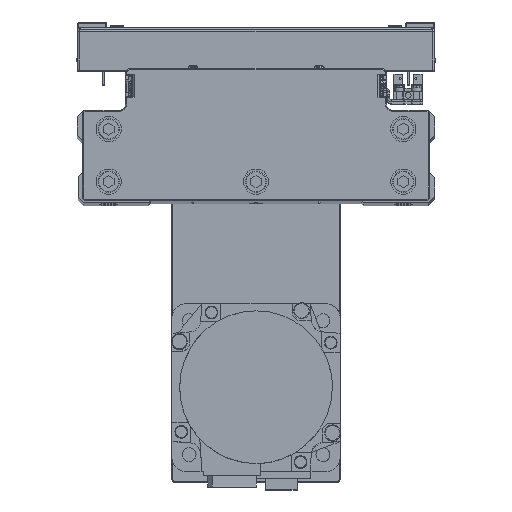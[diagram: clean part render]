
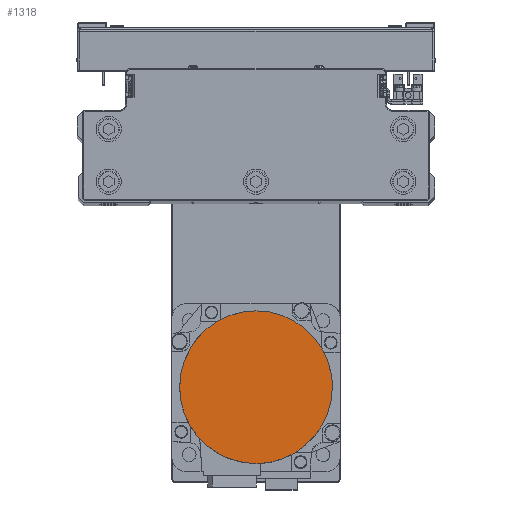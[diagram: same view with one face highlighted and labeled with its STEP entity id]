
A CAD part, top view. The second image highlights one B-rep face of the part: STEP entity #1318.
In plain terms, the highlighted planar face has unit normal (0, 0, 1) as drawn and (0, 0, -1) by its records, which use the part's own axes.
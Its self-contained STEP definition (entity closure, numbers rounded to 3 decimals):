
#777 = CARTESIAN_POINT ( 'NONE',  ( -36.066, -4.752, -122.2 ) ) ;
#1003 = CARTESIAN_POINT ( 'NONE',  ( -4.752, -36.066, -122.2 ) ) ;
#1318 = ADVANCED_FACE ( 'NONE', ( #12619 ), #26341, .F. ) ;
#1384 = CARTESIAN_POINT ( 'NONE',  ( -31.502, 18.192, -122.2 ) ) ;
#3620 = EDGE_LOOP ( 'NONE', ( #7188, #16813, #26326, #14446 ) ) ;
#4372 = CARTESIAN_POINT ( 'NONE',  ( -16.086, -32.628, -122.2 ) ) ;
#4771 = CARTESIAN_POINT ( 'NONE',  ( -23.988, 27.348, -122.2 ) ) ;
#5411 = CARTESIAN_POINT ( 'NONE',  ( 0., 0., -122.2 ) ) ;
#5618 = EDGE_CURVE ( 'NONE', #21263, #6183, #8970, .T. ) ;
#5646 = EDGE_CURVE ( 'NONE', #12370, #21263, #26222, .T. ) ;
#6183 = VERTEX_POINT ( 'NONE', #30246 ) ;
#6805 = AXIS2_PLACEMENT_3D ( 'NONE', #5411, #19133, #32860 ) ;
#7188 = ORIENTED_EDGE ( 'NONE', *, *, #5646, .F. ) ;
#7746 = CARTESIAN_POINT ( 'NONE',  ( -23.988, -27.348, -122.2 ) ) ;
#8149 = CARTESIAN_POINT ( 'NONE',  ( -16.086, 32.628, -122.2 ) ) ;
#8552 = CARTESIAN_POINT ( 'NONE',  ( 0., 0., -122.2 ) ) ;
#8970 = CIRCLE ( 'NONE', #34129, 36.3 ) ;
#9223 = DIRECTION ( 'NONE',  ( 0., 0., 1. ) ) ;
#11145 = CARTESIAN_POINT ( 'NONE',  ( -31.502, -18.192, -122.2 ) ) ;
#11520 = CARTESIAN_POINT ( 'NONE',  ( -4.752, 36.066, -122.2 ) ) ;
#11753 = CARTESIAN_POINT ( 'NONE',  ( -36.066, 4.752, -122.2 ) ) ;
#12370 = VERTEX_POINT ( 'NONE', #44306 ) ;
#12619 = FACE_OUTER_BOUND ( 'NONE', #3620, .T. ) ;
#14138 = AXIS2_PLACEMENT_3D ( 'NONE', #40077, #9223, #22949 ) ;
#14446 = ORIENTED_EDGE ( 'NONE', *, *, #5618, .F. ) ;
#14513 = CARTESIAN_POINT ( 'NONE',  ( -35.139, -9.412, -122.2 ) ) ;
#14738 = CARTESIAN_POINT ( 'NONE',  ( -2.376, -36.3, -122.2 ) ) ;
#15117 = CARTESIAN_POINT ( 'NONE',  ( -32.628, 16.086, -122.2 ) ) ;
#16813 = ORIENTED_EDGE ( 'NONE', *, *, #44496, .F. ) ;
#17883 = CARTESIAN_POINT ( 'NONE',  ( -36.3, 0., -122.2 ) ) ;
#18106 = CARTESIAN_POINT ( 'NONE',  ( -11.696, -34.446, -122.2 ) ) ;
#18489 = CARTESIAN_POINT ( 'NONE',  ( -27.348, 23.988, -122.2 ) ) ;
#19133 = DIRECTION ( 'NONE',  ( 0., 0., 1. ) ) ;
#20767 = EDGE_CURVE ( 'NONE', #6183, #28260, #32257, .T. ) ;
#21263 = VERTEX_POINT ( 'NONE', #37490 ) ;
#21484 = CARTESIAN_POINT ( 'NONE',  ( -22.143, -28.862, -122.2 ) ) ;
#21876 = CARTESIAN_POINT ( 'NONE',  ( -18.192, 31.502, -122.2 ) ) ;
#22279 = DIRECTION ( 'NONE',  ( 0., 0., 1. ) ) ;
#22949 = DIRECTION ( 'NONE',  ( 1., 0., 0. ) ) ;
#24865 = CARTESIAN_POINT ( 'NONE',  ( -28.862, -22.143, -122.2 ) ) ;
#25197 = B_SPLINE_CURVE_WITH_KNOTS ( 'NONE', 3,
 ( #17883, #31604, #777, #14513, #28252, #41983, #11145, #24865, #38595, #7746, #21484, #35213, #4372, #18106, #31840, #1003, #14738, #28455 ),
 .UNSPECIFIED., .F., .F.,
 ( 4, 2, 2, 2, 2, 2, 2, 2, 4 ),
 ( 0., 0.125, 0.25, 0.375, 0.5, 0.625, 0.75, 0.875, 1. ),
 .UNSPECIFIED. ) ;
#25248 = CARTESIAN_POINT ( 'NONE',  ( -9.412, 35.139, -122.2 ) ) ;
#25482 = CARTESIAN_POINT ( 'NONE',  ( -36.3, 2.376, -122.2 ) ) ;
#26222 = CIRCLE ( 'NONE', #6805, 36.3 ) ;
#26326 = ORIENTED_EDGE ( 'NONE', *, *, #20767, .F. ) ;
#26341 = PLANE ( 'NONE',  #14138 ) ;
#28252 = CARTESIAN_POINT ( 'NONE',  ( -34.446, -11.696, -122.2 ) ) ;
#28260 = VERTEX_POINT ( 'NONE', #33500 ) ;
#28455 = CARTESIAN_POINT ( 'NONE',  ( 0., -36.3, -122.2 ) ) ;
#28625 = CARTESIAN_POINT ( 'NONE',  ( 0., 36.3, -122.2 ) ) ;
#28837 = CARTESIAN_POINT ( 'NONE',  ( -34.446, 11.696, -122.2 ) ) ;
#30246 = CARTESIAN_POINT ( 'NONE',  ( 0., 36.3, -122.2 ) ) ;
#31604 = CARTESIAN_POINT ( 'NONE',  ( -36.3, -2.376, -122.2 ) ) ;
#31840 = CARTESIAN_POINT ( 'NONE',  ( -9.412, -35.139, -122.2 ) ) ;
#32222 = CARTESIAN_POINT ( 'NONE',  ( -28.862, 22.143, -122.2 ) ) ;
#32257 = B_SPLINE_CURVE_WITH_KNOTS ( 'NONE', 3,
 ( #28625, #42364, #11520, #25248, #38989, #8149, #21876, #35613, #4771, #18489, #32222, #1384, #15117, #28837, #42586, #11753, #25482, #39209 ),
 .UNSPECIFIED., .F., .F.,
 ( 4, 2, 2, 2, 2, 2, 2, 2, 4 ),
 ( 0., 0.125, 0.25, 0.375, 0.5, 0.625, 0.75, 0.875, 1. ),
 .UNSPECIFIED. ) ;
#32860 = DIRECTION ( 'NONE',  ( -1., 0., 0. ) ) ;
#33500 = CARTESIAN_POINT ( 'NONE',  ( -36.3, 0., -122.2 ) ) ;
#34129 = AXIS2_PLACEMENT_3D ( 'NONE', #8552, #22279, #36019 ) ;
#35213 = CARTESIAN_POINT ( 'NONE',  ( -18.192, -31.502, -122.2 ) ) ;
#35613 = CARTESIAN_POINT ( 'NONE',  ( -22.143, 28.862, -122.2 ) ) ;
#36019 = DIRECTION ( 'NONE',  ( -1., 0., 0. ) ) ;
#37490 = CARTESIAN_POINT ( 'NONE',  ( 36.3, 0., -122.2 ) ) ;
#38595 = CARTESIAN_POINT ( 'NONE',  ( -27.348, -23.988, -122.2 ) ) ;
#38989 = CARTESIAN_POINT ( 'NONE',  ( -11.696, 34.446, -122.2 ) ) ;
#39209 = CARTESIAN_POINT ( 'NONE',  ( -36.3, 0., -122.2 ) ) ;
#40077 = CARTESIAN_POINT ( 'NONE',  ( 0., 0., -122.2 ) ) ;
#41983 = CARTESIAN_POINT ( 'NONE',  ( -32.628, -16.086, -122.2 ) ) ;
#42364 = CARTESIAN_POINT ( 'NONE',  ( -2.376, 36.3, -122.2 ) ) ;
#42586 = CARTESIAN_POINT ( 'NONE',  ( -35.139, 9.412, -122.2 ) ) ;
#44306 = CARTESIAN_POINT ( 'NONE',  ( 0., -36.3, -122.2 ) ) ;
#44496 = EDGE_CURVE ( 'NONE', #28260, #12370, #25197, .T. ) ;
